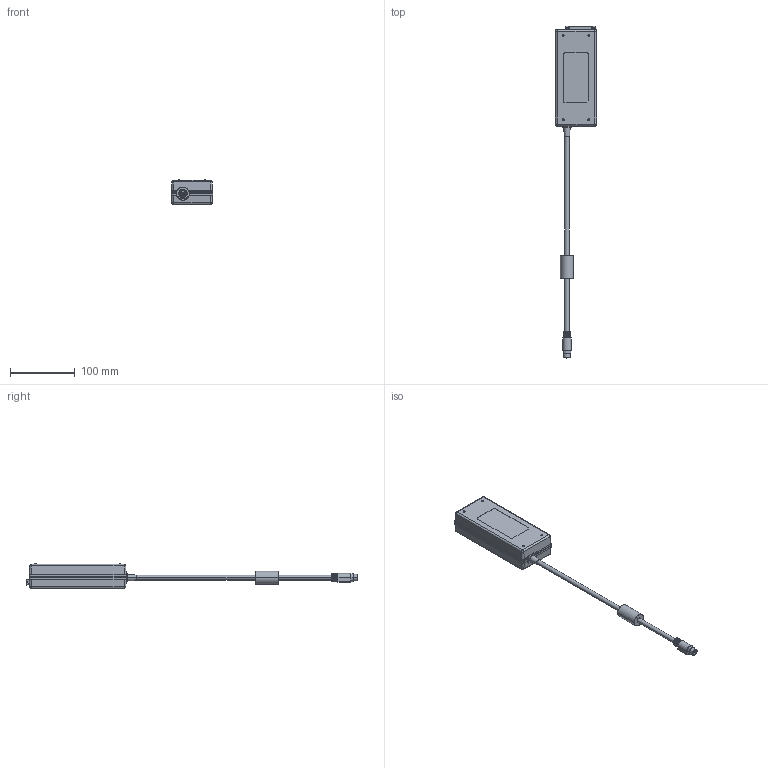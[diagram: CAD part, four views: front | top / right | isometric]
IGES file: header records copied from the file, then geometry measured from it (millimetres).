
Start section: SolidWorks IGES file using analytic representation for surfaces
Global section: file name: C:\Users\Leonard Torio\Desktop\AHM 3D STEP FILES\IGES\AHM85PSXX IGES.IGS; native system: SolidWorks 2011; preprocessor: SolidWorks 2011; author: Leonard Torio; date: 120116.094240; units: millimetre
Bounding box: 63.97 x 512.51 x 38 mm (x, y, z)
Surface area: 86358.9 mm2 (no closed solid volume)
Topology: 0 solids, 0 shells, 856 faces, 7452 edges, 7431 vertices
Faces by surface type: bspline 544, revolution 312
